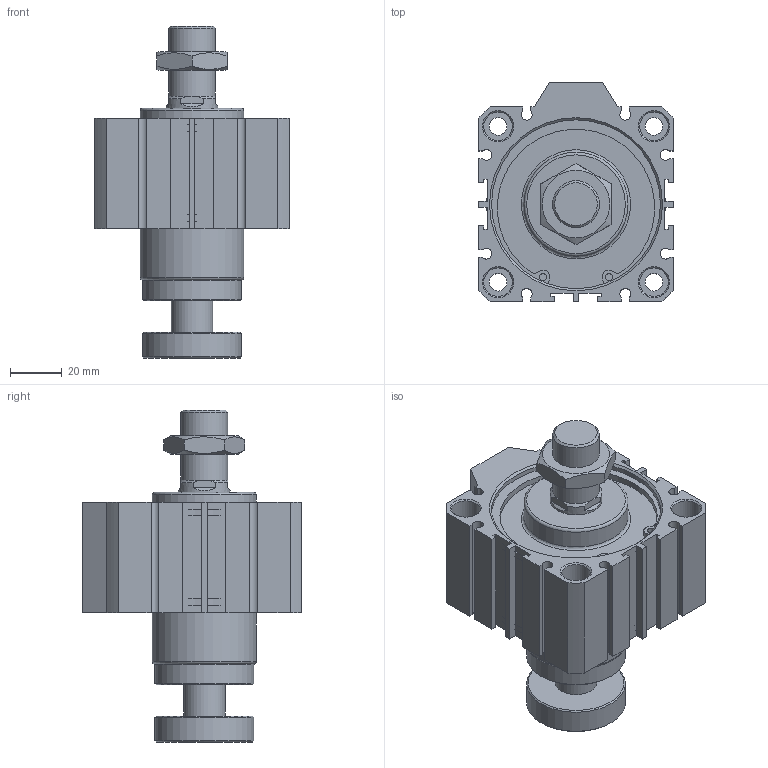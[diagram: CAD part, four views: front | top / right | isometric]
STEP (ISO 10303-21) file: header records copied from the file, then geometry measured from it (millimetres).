
FILE_DESCRIPTION((''),'2;1');
FILE_NAME('I:\3D電子目錄\氣缸\JDAR\JDAR-B\JDAR63-B\JDAR63x10-B.stp','2007-05-05T08:24:36',('662F206'),(''),'Autodesk Inventor 11','Autodesk Inventor 11','');
FILE_SCHEMA(('AUTOMOTIVE_DESIGN { 1 0 10303 214 1 1 1 1 }'));
Length unit declared in the file: millimetre
Products named in the file (3): JDAR63-B; R 形環 65
Assembly tree (3 placements, depth 2):
  JDAR63-B
    JDAR63-B
    R 形環 65  x2
Bounding box: 75 x 84.5 x 127.8 mm (x, y, z)
Volume: 266389.8 mm3; surface area: 54297.8 mm2
Topology: 3 solids, 3 shells, 201 faces, 487 edges, 317 vertices
Faces by surface type: plane 117, cylinder 56, cone 24, bspline 2, torus 2
Full cylindrical faces by diameter (mm): 2.7 x4, 3 x2, 6.8 x4, 11 x8, 16 x1, 18 x2, 20 x1, 38 x2, 40 x2, 65 x4, 68 x2
Entity records: 5349 total; most frequent: CARTESIAN_POINT 1011, DIRECTION 894, ORIENTED_EDGE 794, EDGE_CURVE 397, AXIS2_PLACEMENT_3D 324, VERTEX_POINT 291, EDGE_LOOP 280, VECTOR 246
